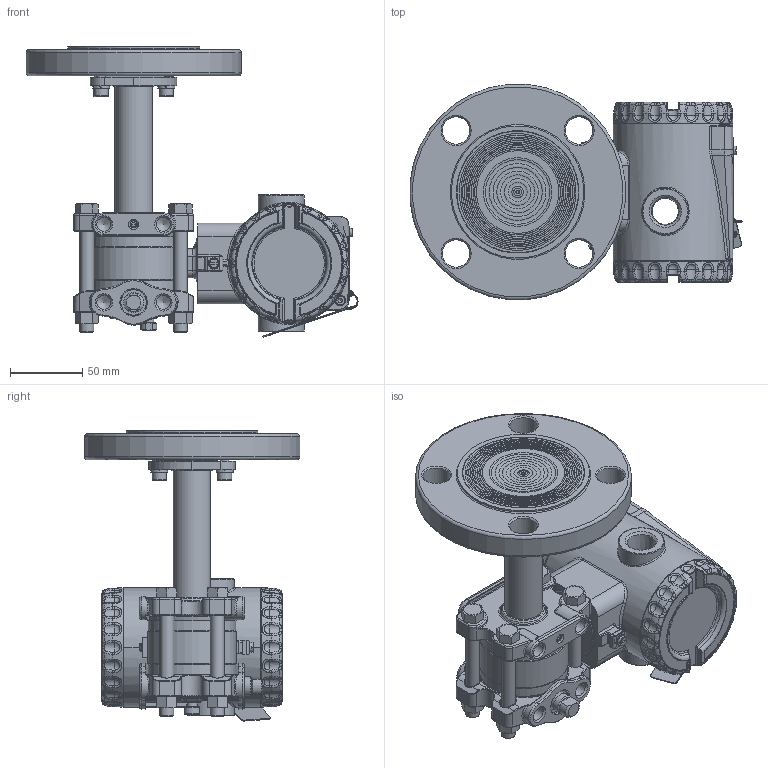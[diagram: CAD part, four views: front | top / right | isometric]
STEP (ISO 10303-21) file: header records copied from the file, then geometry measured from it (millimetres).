
FILE_DESCRIPTION(/* description */ (''),/* implementation_level */ '2;1');
FILE_NAME(/* name */ 'F:\Area\Desenvolvimento_2\Projects\Sensor\projetos\LD400-3d\dimensionais 3D clientes\LD400L\LD400L 2-150 RF ref 1-4NPT purga acima.stp',/* time_stamp */ '2023-02-23T15:25:25-03:00',/* author */ ('inventor02'),/* organization */ (''),/* preprocessor_version */ 'ST-DEVELOPER v17',/* originating_system */ 'Autodesk Inventor 2019',/* authorisation */ '');
FILE_SCHEMA (('CONFIG_CONTROL_DESIGN'));
Products named in the file (38): LD30XL 2-150 RF ref 1-4NPT purga acima; 204-0301-L-2 150 RF purga acima; nivel fx3 com baixa diferencial 1-4NPT purga acima; involucro fx0-3 apos a usinagem final; flange diferencial std purga; 101-C-7484-01 flange selo nivel VR; 201-A-0504-tubo união teste 1; bujao 1-4NPT; Sangria; Porca 3-8 x 16 UNC; Paraf. 3-8 x 16 UNC; adaptação tubo x flanges 1-1-2 a 4pol; 101-B-0161-anel cortado do tubo - teste1; 101-B-0162-flange fixação tubo; ANSI B18.3.1M - M6x1 x 16; DIN 127 - A 6; 101-C-0106-10; Carcaça 400 com tampas e plaqueta sem letras; 101-D-0845-05 carcaça LD400 sem letras; 101-B-3614-03-tampa 400 sem letras; Tampa visor 400 montada sem letras; 101-B-3612-05 tampa visor 400 sem letras; 101-A-6107; oring 2034; 00034775-0; WHW_250; DIN 915 - M6 x 10; Chapa aterramento externo; 201-A-1771-02 inserto terra recartilhado; AS 1969 - ST4,2; ISO 1207 - M4 x 8; ANSI B18.3.1M - M4x0,7 x 8; Subconjunto plaqueta 400; plaqueta 400 em branco; Parafuso da Plaqueta; Rebite da Plaqueta; 096-A-0169-03; 101-A-0502-01
Assembly tree (47 placements, depth 4):
  LD30XL 2-150 RF ref 1-4NPT purga acima
    204-0301-L-2 150 RF purga acima
      nivel fx3 com baixa diferencial 1-4NPT purga acima
        involucro fx0-3 apos a usinagem final
        flange diferencial std purga
        101-C-7484-01 flange selo nivel VR
        201-A-0504-tubo união teste 1
        DIN 915 - M6 x 10
        bujao 1-4NPT
        Sangria
        Porca 3-8 x 16 UNC  x4
        Paraf. 3-8 x 16 UNC  x4
      adaptação tubo x flanges 1-1-2 a 4pol
        101-B-0161-anel cortado do tubo - teste1
        101-B-0162-flange fixação tubo
        ANSI B18.3.1M - M6x1 x 16  x2
        DIN 127 - A 6  x2
      101-C-0106-10
    Carcaça 400 com tampas e plaqueta sem letras
      101-D-0845-05 carcaça LD400 sem letras
      101-B-3614-03-tampa 400 sem letras
      Tampa visor 400 montada sem letras
        101-B-3612-05 tampa visor 400 sem letras
        101-A-6107
        oring 2034
        00034775-0
        WHW_250
      DIN 915 - M6 x 10
      Chapa aterramento externo
      201-A-1771-02 inserto terra recartilhado
      AS 1969 - ST4,2
      ISO 1207 - M4 x 8
      ANSI B18.3.1M - M4x0,7 x 8  x2
      Subconjunto plaqueta 400
        plaqueta 400 em branco
        Parafuso da Plaqueta
        Rebite da Plaqueta
        096-A-0169-03
        101-A-0502-01
Bounding box: 230.46 x 149.43 x 201.42 mm (x, y, z)
Volume: 937070.3 mm3; surface area: 306618.1 mm2
Topology: 41 solids, 41 shells, 2713 faces, 6595 edges, 3948 vertices
Faces by surface type: plane 706, cylinder 656, bspline 604, torus 455, cone 216, sphere 76
Full cylindrical faces by diameter (mm): 2 x4, 2.1 x1, 2.2 x1, 2.459 x3, 2.5 x1, 2.7 x1, 2.8 x1, 3 x4, 3.242 x3, 3.5 x1, 3.571 x1, 4 x5, 4.3 x2, 4.4 x1, 4.917 x4, 5 x1, 5.5 x3, 6 x6, 6.1 x2, 6.2 x1, 6.647 x1, 7 x5, 7.6 x2, 7.798 x4, 8 x1, 9.525 x4, 9.728 x6, 10 x2, 10.5 x8, 10.719 x2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
Entity records: 97003 total; most frequent: CARTESIAN_POINT 36812, ORIENTED_EDGE 12430, DIRECTION 12362, EDGE_CURVE 6215, AXIS2_PLACEMENT_3D 5277, VERTEX_POINT 3754, CIRCLE 3057, EDGE_LOOP 2733
